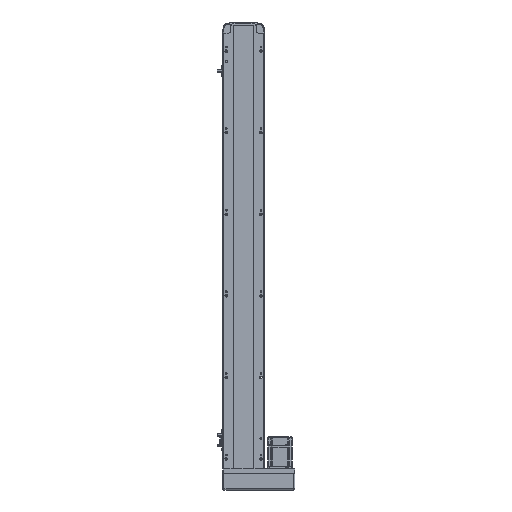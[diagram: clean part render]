
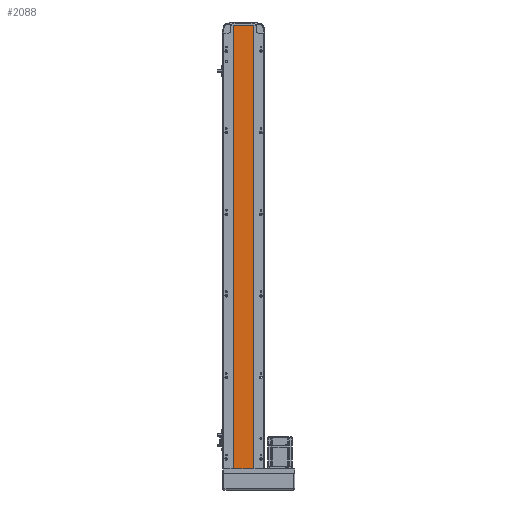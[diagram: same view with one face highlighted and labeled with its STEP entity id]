
A CAD part, front view. The second image highlights one B-rep face of the part: STEP entity #2088.
In plain terms, the highlighted planar face has unit normal (0, -1, 0).
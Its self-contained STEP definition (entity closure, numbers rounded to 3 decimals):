
#1829 = VECTOR ( 'NONE', #51927, 1000. ) ;
#2088 = ADVANCED_FACE ( 'NONE', ( #46982 ), #58488, .F. ) ;
#6816 = DIRECTION ( 'NONE',  ( 0., 0., 1. ) ) ;
#9118 = LINE ( 'NONE', #49740, #53914 ) ;
#10270 = CARTESIAN_POINT ( 'NONE',  ( -24.5, 2., 1087. ) ) ;
#17299 = CARTESIAN_POINT ( 'NONE',  ( -24.5, 2., 0. ) ) ;
#17948 = EDGE_CURVE ( 'NONE', #27032, #39201, #9118, .T. ) ;
#21016 = ORIENTED_EDGE ( 'NONE', *, *, #34381, .T. ) ;
#21576 = CARTESIAN_POINT ( 'NONE',  ( 24.5, 2., 0. ) ) ;
#22010 = ORIENTED_EDGE ( 'NONE', *, *, #43205, .F. ) ;
#25779 = AXIS2_PLACEMENT_3D ( 'NONE', #30352, #53368, #6816 ) ;
#26139 = CARTESIAN_POINT ( 'NONE',  ( 0., 2., 0. ) ) ;
#27032 = VERTEX_POINT ( 'NONE', #59120 ) ;
#27523 = LINE ( 'NONE', #10270, #1829 ) ;
#28381 = VECTOR ( 'NONE', #31719, 1000. ) ;
#30337 = ORIENTED_EDGE ( 'NONE', *, *, #17948, .T. ) ;
#30352 = CARTESIAN_POINT ( 'NONE',  ( 0., 2., 1087. ) ) ;
#30590 = VERTEX_POINT ( 'NONE', #43747 ) ;
#31719 = DIRECTION ( 'NONE',  ( 1., 0., 0. ) ) ;
#32915 = DIRECTION ( 'NONE',  ( 0., 0., -1. ) ) ;
#34381 = EDGE_CURVE ( 'NONE', #39201, #51765, #58518, .T. ) ;
#36336 = VECTOR ( 'NONE', #32915, 1000. ) ;
#39201 = VERTEX_POINT ( 'NONE', #17299 ) ;
#43205 = EDGE_CURVE ( 'NONE', #30590, #51765, #48806, .T. ) ;
#43721 = EDGE_CURVE ( 'NONE', #27032, #30590, #27523, .T. ) ;
#43747 = CARTESIAN_POINT ( 'NONE',  ( 24.5, 2., 1087. ) ) ;
#43818 = ORIENTED_EDGE ( 'NONE', *, *, #43721, .F. ) ;
#46982 = FACE_OUTER_BOUND ( 'NONE', #56302, .T. ) ;
#48806 = LINE ( 'NONE', #52004, #36336 ) ;
#49740 = CARTESIAN_POINT ( 'NONE',  ( -24.5, 2., 1087. ) ) ;
#51765 = VERTEX_POINT ( 'NONE', #21576 ) ;
#51927 = DIRECTION ( 'NONE',  ( 1., 0., 0. ) ) ;
#52004 = CARTESIAN_POINT ( 'NONE',  ( 24.5, 2., 1087. ) ) ;
#53368 = DIRECTION ( 'NONE',  ( 0., 1., 0. ) ) ;
#53914 = VECTOR ( 'NONE', #60247, 1000. ) ;
#56302 = EDGE_LOOP ( 'NONE', ( #21016, #22010, #43818, #30337 ) ) ;
#58488 = PLANE ( 'NONE',  #25779 ) ;
#58518 = LINE ( 'NONE', #26139, #28381 ) ;
#59120 = CARTESIAN_POINT ( 'NONE',  ( -24.5, 2., 1087. ) ) ;
#60247 = DIRECTION ( 'NONE',  ( 0., 0., -1. ) ) ;
